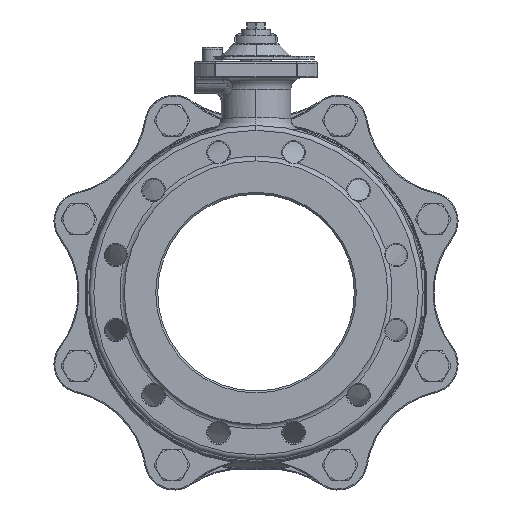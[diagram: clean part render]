
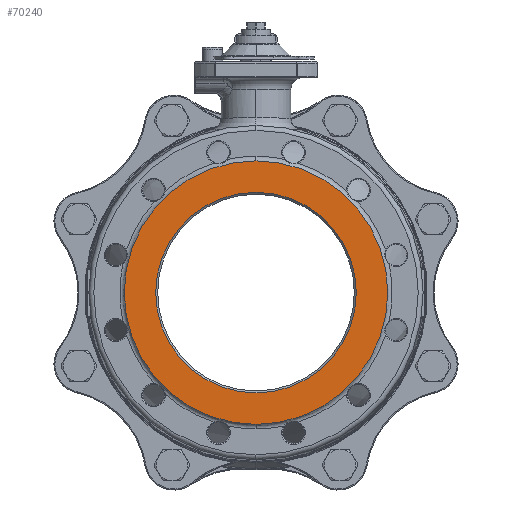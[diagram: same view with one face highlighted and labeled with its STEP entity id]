
A CAD part, left-side view. The second image highlights one B-rep face of the part: STEP entity #70240.
In plain terms, the highlighted planar face has unit normal (-1, 0, 0).
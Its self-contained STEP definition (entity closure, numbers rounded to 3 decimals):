
#8506=CARTESIAN_POINT('',(-164.8,0.,0.));
#8507=DIRECTION('',(-1.,0.,0.));
#8508=DIRECTION('',(0.,0.,-1.));
#8509=AXIS2_PLACEMENT_3D('',#8506,#8507,#8508);
#8511=CARTESIAN_POINT('',(-164.8,0.,0.));
#8512=DIRECTION('',(-1.,0.,0.));
#8513=DIRECTION('',(0.,0.,1.));
#8514=AXIS2_PLACEMENT_3D('',#8511,#8512,#8513);
#8516=CARTESIAN_POINT('',(-164.8,0.,0.));
#8517=DIRECTION('',(-1.,0.,0.));
#8518=DIRECTION('',(0.,0.,1.));
#8519=AXIS2_PLACEMENT_3D('',#8516,#8517,#8518);
#8521=CARTESIAN_POINT('',(-164.8,0.,0.));
#8522=DIRECTION('',(1.,0.,0.));
#8523=DIRECTION('',(0.,0.,1.));
#8524=AXIS2_PLACEMENT_3D('',#8521,#8522,#8523);
#49317=CARTESIAN_POINT('',(-164.8,0.,102.));
#49318=CARTESIAN_POINT('',(-164.8,0.,-102.));
#49319=VERTEX_POINT('',#49317);
#49320=VERTEX_POINT('',#49318);
#51119=CARTESIAN_POINT('',(-164.8,0.,-134.));
#51121=VERTEX_POINT('',#51119);
#51123=CARTESIAN_POINT('',(-164.8,0.,134.));
#51124=VERTEX_POINT('',#51123);
#70225=CARTESIAN_POINT('',(-164.8,0.,0.));
#70226=DIRECTION('',(-1.,0.,0.));
#70227=DIRECTION('',(0.,0.,1.));
#70228=AXIS2_PLACEMENT_3D('',#70225,#70226,#70227);
#70229=PLANE('',#70228);
#70230=ORIENTED_EDGE('',*,*,#70196,.F.);
#70231=ORIENTED_EDGE('',*,*,#70185,.F.);
#70232=EDGE_LOOP('',(#70230,#70231));
#70233=FACE_OUTER_BOUND('',#70232,.F.);
#70235=ORIENTED_EDGE('',*,*,#70234,.T.);
#70237=ORIENTED_EDGE('',*,*,#70236,.F.);
#70238=EDGE_LOOP('',(#70235,#70237));
#70239=FACE_BOUND('',#70238,.F.);
#70240=ADVANCED_FACE('',(#70233,#70239),#70229,.T.);
#8510=CIRCLE('',#8509,134.);
#8515=CIRCLE('',#8514,134.);
#8520=CIRCLE('',#8519,102.);
#8525=CIRCLE('',#8524,102.);
#70185=EDGE_CURVE('',#51124,#51121,#8515,.T.);
#70196=EDGE_CURVE('',#51121,#51124,#8510,.T.);
#70234=EDGE_CURVE('',#49319,#49320,#8520,.T.);
#70236=EDGE_CURVE('',#49319,#49320,#8525,.T.);
